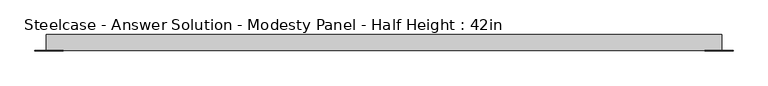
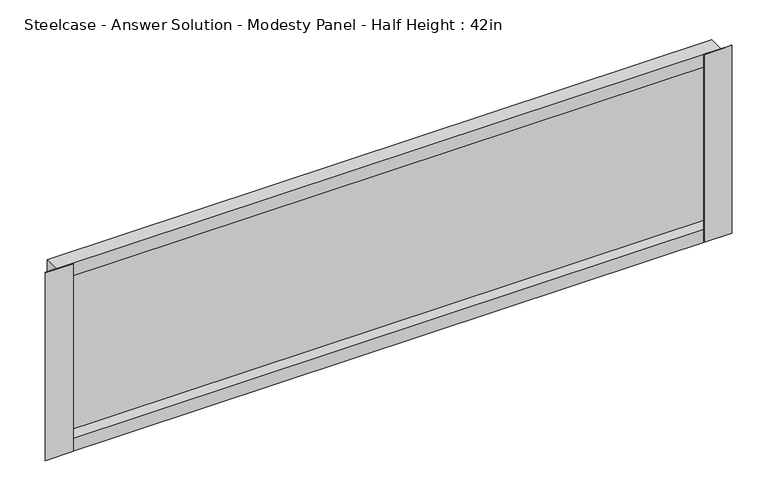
"""IFC4 building model written with IfcOpenShell, lengths in millimetres: furniture geometry, Steelcase - Answer Solution - Modesty Panel - Half Height : 42in."""

from ifc_helpers import new_model, si_unit, frame, origin, place, context, project, spatial, polyline, outline, extrude, faceted_brep, source, transform, mapped, element, save


def steelcase_answer_solution_modesty_panel_half_height_42in_a9de38b9(model_context):
    return source(origin(), model_context, "Body", "SolidModel", [
        extrude(outline(polyline([(1610.3400478, -14.2668826), (1610.3400478, -15.0593624), (1565.9248254, -15.0593624), (1565.9248254, -14.2668826), (1610.3400478, -14.2668826)])), frame((0.0, 0.0, 17.653), z_axis=(0.0, 0.0, 1.0), x_axis=(1.0, 0.0, 0.0)), (0.0, 0.0, 1.0), 317.5),
        extrude(outline(polyline([(556.9673392, -14.2668826), (556.9673392, -15.0593624), (512.5520826, -15.0593624), (512.5520826, -14.2668826), (556.9673392, -14.2668826)])), frame((0.0, 0.0, 17.653), z_axis=(0.0, 0.0, 1.0), x_axis=(1.0, 0.0, 0.0)), (0.0, 0.0, 1.0), 317.5),
        faceted_brep([(530.0780827, 10.9045177, 17.653), (530.0780827, -14.2668826, 17.653), (530.0780827, -14.2668826, 335.153), (530.0780827, 10.9045177, 335.153), (1592.8140827, -14.2668826, 17.653), (1592.8140827, 10.9045177, 17.653), (1592.8140827, 10.9045177, 335.153), (1592.8140827, -14.2668826, 335.153), (1592.0216165, 4.7831174, 39.243), (530.8705628, 4.7831174, 39.243), (530.8705628, -14.2668826, 39.243), (1592.0216165, -14.2668826, 39.243), (530.8705628, -14.2668826, 313.563), (1592.0216165, -14.2668826, 313.563), (530.8705628, 4.7831174, 313.563), (1592.0216165, 4.7831174, 313.563)], [[[0, 1, 2, 3]], [[4, 5, 6, 7]], [[8, 9, 10, 11]], [[0, 3, 6, 5]], [[4, 1, 0, 5]], [[2, 1, 4, 7], [10, 12, 13, 11]], [[3, 2, 7, 6]], [[14, 15, 13, 12]], [[9, 8, 15, 14]], [[12, 10, 9, 14]], [[11, 13, 15, 8]]]),
    ])


if __name__ == "__main__":
    model = new_model("IFC4")
    model_context = context("Model", 3, world=origin())
    ifc_project = project(units=[si_unit("LENGTHUNIT", "METRE", prefix="MILLI")], contexts=[model_context])
    site = spatial("IfcSite", under=ifc_project)
    building = spatial("IfcBuilding", under=site)
    placement = place(None, origin())
    steelcase_answer_solution_modesty_panel_half_height_42in_shape = steelcase_answer_solution_modesty_panel_half_height_42in_a9de38b9(model_context)
    element("IfcFurniture", 1, ObjectType="Steelcase - Answer Solution - Modesty Panel - Half Height : 42in", at=placement, inside=building, context=model_context, shape_type="MappedRepresentation", body=[
        mapped(steelcase_answer_solution_modesty_panel_half_height_42in_shape, transform((0.0, 0.0, 0.0), x_axis=(1.0, 0.0, 0.0), y_axis=(0.0, 1.0, 0.0), z_axis=(0.0, 0.0, 1.0))),
    ])
    save(model, "model.ifc")
